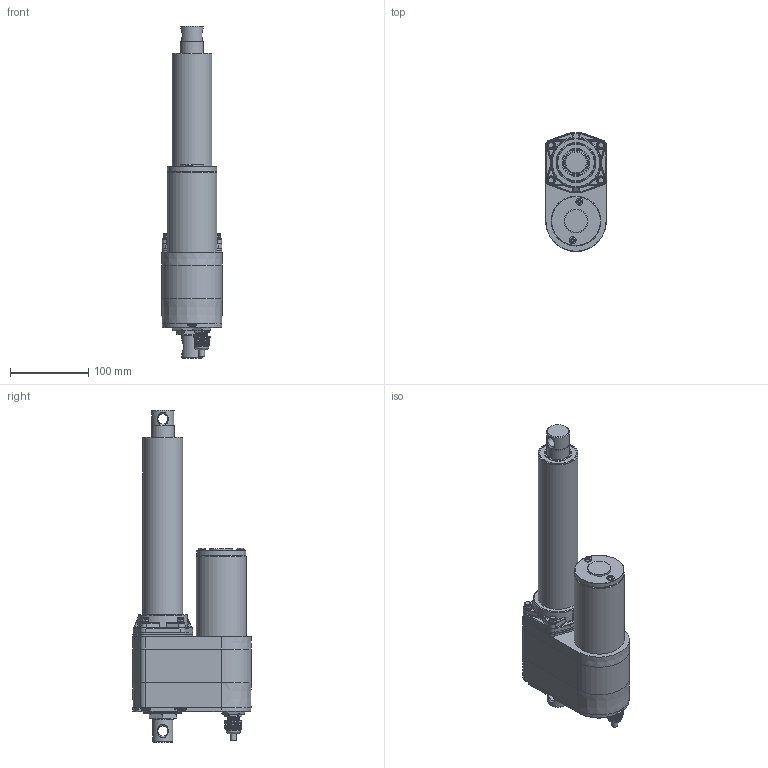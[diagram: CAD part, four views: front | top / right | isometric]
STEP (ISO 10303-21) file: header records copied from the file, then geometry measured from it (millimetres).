
FILE_DESCRIPTION (( 'STEP AP203' ), '1' );
FILE_NAME ('ID10P-24-B-LT-IP67.SLDPRT.STEP', '2020-05-27T02:29:26', ( '' ), ( '' ), 'SwSTEP 2.0', 'SolidWorks 2015', '' );
FILE_SCHEMA (( 'CONFIG_CONTROL_DESIGN' ));
Length unit declared in the file: millimetre
Products named in the file (3): ID10P-24-B-LT-IP67.SLDPRT; ID10P-B-LT-1; ID10P-B-LT-2
Assembly tree (2 placements, depth 2):
  ID10P-24-B-LT-IP67.SLDPRT
    ID10P-B-LT-1
    ID10P-B-LT-2
Bounding box: 77.3 x 151.8 x 423.5 mm (x, y, z)
Volume: 1980883.3 mm3; surface area: 187932.4 mm2
Topology: 2 solids, 24 shells, 2328 faces, 5980 edges, 3740 vertices
Faces by surface type: plane 1183, cylinder 606, bspline 283, cone 127, torus 101, sphere 28
Full cylindrical faces by diameter (mm): 0.65 x1, 2 x1, 3.9 x1, 4.2 x6, 5.3 x1, 5.5 x4, 6.1 x5, 7 x1, 7.2 x1, 8.3 x2, 8.4 x1, 8.5 x4, 8.75 x1, 8.9 x1, 9 x3, 10 x1, 11.3 x4, 12 x4, 12.1 x1, 12.4 x1, 12.5 x1, 13 x2, 16.2 x1, 17.85 x1, 21.6 x1, 26 x1, 28.6 x3, 28.8 x1, 30 x1, 48 x1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
Entity records: 81381 total; most frequent: CARTESIAN_POINT 29965, ORIENTED_EDGE 11454, DIRECTION 9489, EDGE_CURVE 5727, VERTEX_POINT 3667, AXIS2_PLACEMENT_3D 3511, EDGE_LOOP 2572, LINE 2467
